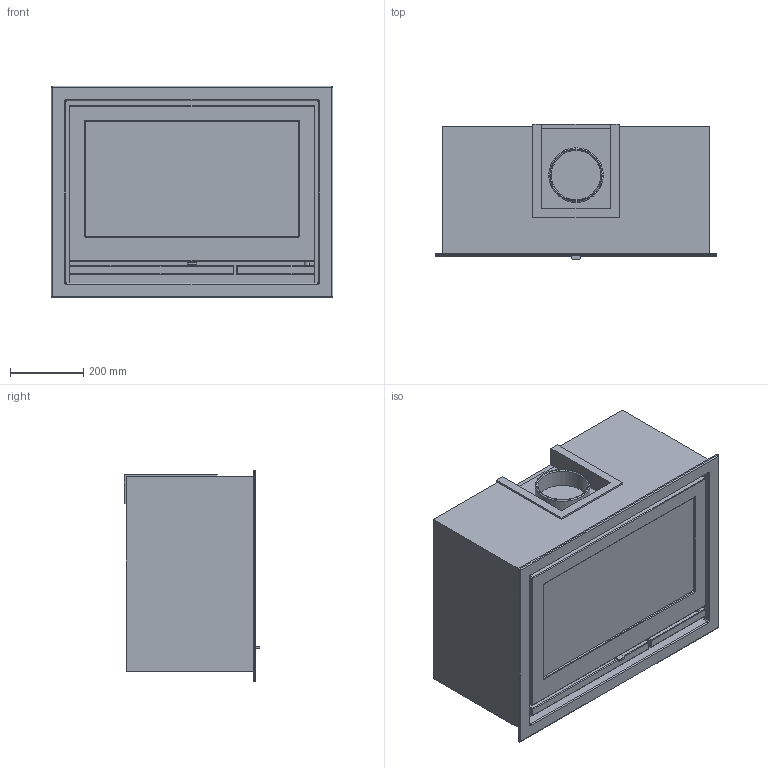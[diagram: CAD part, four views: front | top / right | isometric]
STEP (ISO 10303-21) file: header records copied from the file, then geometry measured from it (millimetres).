
FILE_DESCRIPTION(/* description */ ('Unknown','CAx-IF Rec.Pracs.---Representation and Presentation of Product Manufacturing Information (PMI)---4.0---2014-10-13','CAx-IF Rec.Pracs.---3D Tessellated Geometry---0.4---2014-09-14','2;1'),/* implementation_level */ '2;1');
FILE_NAME(/* name */ 'Ci7 Assembly',/* time_stamp */ '2016-12-29T08:27:50+01:00',/* author */ ('Unknown'),/* organization */ ('Unknown'),/* preprocessor_version */ 'ST-DEVELOPER v16.7',/* originating_system */ 'DEX',/* authorisation */ $);
FILE_SCHEMA (('AP242_MANAGED_MODEL_BASED_3D_ENGINEERING_MIM_LF { 1 0 10303 442 20130219 1 4 }'));
Length unit declared in the file: millimetre
Products named in the file (7): DSN1015707; DSN1015718; DSN1015708; DSN1015711; DSN1015721; DSN1015723; DSN1015727
Assembly tree (6 placements, depth 2):
  DSN1015707
    DSN1015718
    DSN1015708
    DSN1015711
    DSN1015721
    DSN1015723
    DSN1015727
Bounding box: 772.38 x 370.48 x 579.4 mm (x, y, z)
Volume: 107327288.7 mm3; surface area: 7510435.6 mm2
Topology: 7 solids, 7 shells, 777 faces, 1947 edges, 1248 vertices
Faces by surface type: plane 506, bspline 127, cylinder 105, sphere 21, torus 18
Full cylindrical faces by diameter (mm): 14 x1, 135.222 x1, 149.5 x1
Entity records: 28245 total; most frequent: CARTESIAN_POINT 10900, ORIENTED_EDGE 3798, DIRECTION 2975, EDGE_CURVE 1899, VERTEX_POINT 1245, LINE 1031, VECTOR 1031, AXIS2_PLACEMENT_3D 972
